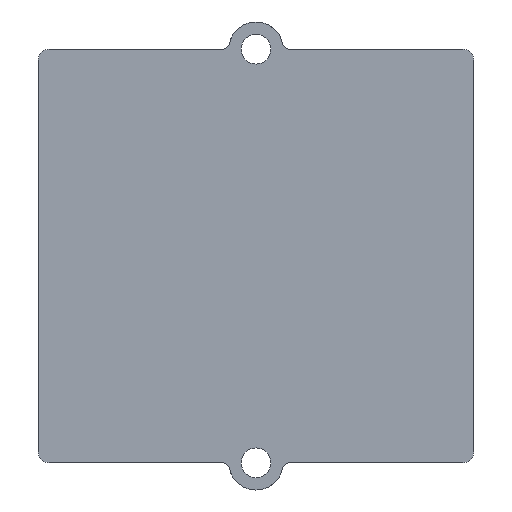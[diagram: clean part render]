
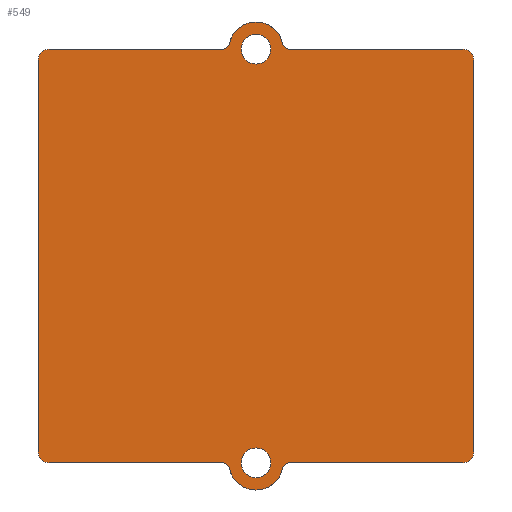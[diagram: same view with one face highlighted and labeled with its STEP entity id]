
A CAD part, front view. The second image highlights one B-rep face of the part: STEP entity #549.
In plain terms, the highlighted planar face has unit normal (0, -1, 0).
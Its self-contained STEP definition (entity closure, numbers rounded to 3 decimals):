
#549=ADVANCED_FACE('',(#4052,#4054,#4056),#4058,.F.);
#4052=FACE_BOUND('',#4053,.T.);
#4053=EDGE_LOOP('',(#7645,#7646,#7647,#7648,#7649,#7650,#7651,#7652,#7653,#7654,
#7655,#7656,#7657,#7658,#7659,#7660));
#4054=FACE_BOUND('',#4055,.T.);
#4055=EDGE_LOOP('',(#7661));
#4056=FACE_BOUND('',#4057,.T.);
#4057=EDGE_LOOP('',(#7662));
#4058=PLANE('',#4059);
#4059=AXIS2_PLACEMENT_3D('',#4060,#4061,#4062);
#4060=CARTESIAN_POINT('',(0.,0.,-28.5));
#4061=DIRECTION('',(0.,1.,0.));
#4062=DIRECTION('',(0.,0.,1.));
#7645=ORIENTED_EDGE('',*,*,#9687,.F.);
#7646=ORIENTED_EDGE('',*,*,#9688,.T.);
#7647=ORIENTED_EDGE('',*,*,#9689,.F.);
#7648=ORIENTED_EDGE('',*,*,#9690,.T.);
#7649=ORIENTED_EDGE('',*,*,#9691,.F.);
#7650=ORIENTED_EDGE('',*,*,#9692,.T.);
#7651=ORIENTED_EDGE('',*,*,#9693,.F.);
#7652=ORIENTED_EDGE('',*,*,#9694,.T.);
#7653=ORIENTED_EDGE('',*,*,#9695,.F.);
#7654=ORIENTED_EDGE('',*,*,#9696,.T.);
#7655=ORIENTED_EDGE('',*,*,#9697,.F.);
#7656=ORIENTED_EDGE('',*,*,#9698,.T.);
#7657=ORIENTED_EDGE('',*,*,#9699,.F.);
#7658=ORIENTED_EDGE('',*,*,#9700,.T.);
#7659=ORIENTED_EDGE('',*,*,#9701,.F.);
#7660=ORIENTED_EDGE('',*,*,#9702,.T.);
#7661=ORIENTED_EDGE('',*,*,#9686,.F.);
#7662=ORIENTED_EDGE('',*,*,#9684,.F.);
#9684=EDGE_CURVE('',#10686,#10686,#10687,.T.);
#9686=EDGE_CURVE('',#10690,#10690,#10691,.T.);
#9687=EDGE_CURVE('',#10692,#10693,#10694,.T.);
#9688=EDGE_CURVE('',#10692,#10695,#10696,.T.);
#9689=EDGE_CURVE('',#10697,#10695,#10698,.T.);
#9690=EDGE_CURVE('',#10697,#10699,#10700,.T.);
#9691=EDGE_CURVE('',#10701,#10699,#10702,.T.);
#9692=EDGE_CURVE('',#10701,#10703,#10704,.T.);
#9693=EDGE_CURVE('',#10705,#10703,#10706,.T.);
#9694=EDGE_CURVE('',#10705,#10707,#10708,.T.);
#9695=EDGE_CURVE('',#10709,#10707,#10710,.T.);
#9696=EDGE_CURVE('',#10709,#10711,#10712,.T.);
#9697=EDGE_CURVE('',#10713,#10711,#10714,.T.);
#9698=EDGE_CURVE('',#10713,#10715,#10716,.T.);
#9699=EDGE_CURVE('',#10717,#10715,#10718,.T.);
#9700=EDGE_CURVE('',#10717,#10719,#10720,.T.);
#9701=EDGE_CURVE('',#10721,#10719,#10722,.T.);
#9702=EDGE_CURVE('',#10721,#10693,#10723,.T.);
#10686=VERTEX_POINT('',#12344);
#10687=CIRCLE('',#12345,2.05);
#10690=VERTEX_POINT('',#12354);
#10691=CIRCLE('',#12355,2.05);
#10692=VERTEX_POINT('',#12359);
#10693=VERTEX_POINT('',#12360);
#10694=LINE('',#12361,#12362);
#10695=VERTEX_POINT('',#12364);
#10696=CIRCLE('',#12365,1.5);
#10697=VERTEX_POINT('',#12369);
#10698=LINE('',#12370,#12371);
#10699=VERTEX_POINT('',#12373);
#10700=CIRCLE('',#12374,1.5);
#10701=VERTEX_POINT('',#12378);
#10702=LINE('',#12379,#12380);
#10703=VERTEX_POINT('',#12382);
#10704=CIRCLE('',#12383,1.);
#10705=VERTEX_POINT('',#12387);
#10706=CIRCLE('',#12388,3.75);
#10707=VERTEX_POINT('',#12392);
#10708=CIRCLE('',#12393,1.);
#10709=VERTEX_POINT('',#12397);
#10710=LINE('',#12398,#12399);
#10711=VERTEX_POINT('',#12401);
#10712=CIRCLE('',#12402,1.5);
#10713=VERTEX_POINT('',#12406);
#10714=LINE('',#12407,#12408);
#10715=VERTEX_POINT('',#12410);
#10716=CIRCLE('',#12411,1.5);
#10717=VERTEX_POINT('',#12415);
#10718=LINE('',#12416,#12417);
#10719=VERTEX_POINT('',#12419);
#10720=CIRCLE('',#12420,1.);
#10721=VERTEX_POINT('',#12424);
#10722=CIRCLE('',#12425,3.75);
#10723=CIRCLE('',#12429,1.);
#12344=CARTESIAN_POINT('',(0.,0.,26.45));
#12345=AXIS2_PLACEMENT_3D('',#12346,#12347,#12348);
#12346=CARTESIAN_POINT('',(0.,0.,28.5));
#12347=DIRECTION('',(0.,-1.,0.));
#12348=DIRECTION('',(0.,0.,-1.));
#12354=CARTESIAN_POINT('',(0.,0.,-30.55));
#12355=AXIS2_PLACEMENT_3D('',#12356,#12357,#12358);
#12356=CARTESIAN_POINT('',(0.,0.,-28.5));
#12357=DIRECTION('',(0.,-1.,0.));
#12358=DIRECTION('',(0.,0.,-1.));
#12359=CARTESIAN_POINT('',(28.5,0.,-28.5));
#12360=CARTESIAN_POINT('',(4.644,0.,-28.5));
#12361=CARTESIAN_POINT('',(28.5,0.,-28.5));
#12362=VECTOR('',#12363,1.);
#12363=DIRECTION('',(-1.,0.,0.));
#12364=CARTESIAN_POINT('',(30.,0.,-27.));
#12365=AXIS2_PLACEMENT_3D('',#12366,#12367,#12368);
#12366=CARTESIAN_POINT('',(28.5,0.,-27.));
#12367=DIRECTION('',(0.,-1.,0.));
#12368=DIRECTION('',(0.,0.,-1.));
#12369=CARTESIAN_POINT('',(30.,0.,27.));
#12370=CARTESIAN_POINT('',(30.,0.,27.));
#12371=VECTOR('',#12372,1.);
#12372=DIRECTION('',(0.,0.,-1.));
#12373=CARTESIAN_POINT('',(28.5,0.,28.5));
#12374=AXIS2_PLACEMENT_3D('',#12375,#12376,#12377);
#12375=CARTESIAN_POINT('',(28.5,0.,27.));
#12376=DIRECTION('',(0.,-1.,0.));
#12377=DIRECTION('',(1.,0.,0.));
#12378=CARTESIAN_POINT('',(4.644,0.,28.5));
#12379=CARTESIAN_POINT('',(4.644,0.,28.5));
#12380=VECTOR('',#12381,1.);
#12381=DIRECTION('',(1.,0.,0.));
#12382=CARTESIAN_POINT('',(3.666,0.,29.289));
#12383=AXIS2_PLACEMENT_3D('',#12384,#12385,#12386);
#12384=CARTESIAN_POINT('',(4.644,0.,29.5));
#12385=DIRECTION('',(0.,1.,0.));
#12386=DIRECTION('',(0.,0.,-1.));
#12387=CARTESIAN_POINT('',(-3.666,0.,29.289));
#12388=AXIS2_PLACEMENT_3D('',#12389,#12390,#12391);
#12389=CARTESIAN_POINT('',(0.,0.,28.5));
#12390=DIRECTION('',(0.,1.,0.));
#12391=DIRECTION('',(-0.978,0.,0.211));
#12392=CARTESIAN_POINT('',(-4.644,0.,28.5));
#12393=AXIS2_PLACEMENT_3D('',#12394,#12395,#12396);
#12394=CARTESIAN_POINT('',(-4.644,0.,29.5));
#12395=DIRECTION('',(0.,1.,0.));
#12396=DIRECTION('',(0.978,0.,-0.211));
#12397=CARTESIAN_POINT('',(-28.5,0.,28.5));
#12398=CARTESIAN_POINT('',(-28.5,0.,28.5));
#12399=VECTOR('',#12400,1.);
#12400=DIRECTION('',(1.,0.,0.));
#12401=CARTESIAN_POINT('',(-30.,0.,27.));
#12402=AXIS2_PLACEMENT_3D('',#12403,#12404,#12405);
#12403=CARTESIAN_POINT('',(-28.5,0.,27.));
#12404=DIRECTION('',(0.,-1.,0.));
#12405=DIRECTION('',(0.,0.,1.));
#12406=CARTESIAN_POINT('',(-30.,0.,-27.));
#12407=CARTESIAN_POINT('',(-30.,0.,-27.));
#12408=VECTOR('',#12409,1.);
#12409=DIRECTION('',(0.,0.,1.));
#12410=CARTESIAN_POINT('',(-28.5,0.,-28.5));
#12411=AXIS2_PLACEMENT_3D('',#12412,#12413,#12414);
#12412=CARTESIAN_POINT('',(-28.5,0.,-27.));
#12413=DIRECTION('',(0.,-1.,0.));
#12414=DIRECTION('',(-1.,0.,0.));
#12415=CARTESIAN_POINT('',(-4.644,0.,-28.5));
#12416=CARTESIAN_POINT('',(-4.644,0.,-28.5));
#12417=VECTOR('',#12418,1.);
#12418=DIRECTION('',(-1.,0.,0.));
#12419=CARTESIAN_POINT('',(-3.666,0.,-29.289));
#12420=AXIS2_PLACEMENT_3D('',#12421,#12422,#12423);
#12421=CARTESIAN_POINT('',(-4.644,0.,-29.5));
#12422=DIRECTION('',(0.,1.,0.));
#12423=DIRECTION('',(0.,0.,1.));
#12424=CARTESIAN_POINT('',(3.666,0.,-29.289));
#12425=AXIS2_PLACEMENT_3D('',#12426,#12427,#12428);
#12426=CARTESIAN_POINT('',(0.,0.,-28.5));
#12427=DIRECTION('',(0.,1.,0.));
#12428=DIRECTION('',(0.978,0.,-0.211));
#12429=AXIS2_PLACEMENT_3D('',#12430,#12431,#12432);
#12430=CARTESIAN_POINT('',(4.644,0.,-29.5));
#12431=DIRECTION('',(0.,1.,0.));
#12432=DIRECTION('',(-0.978,0.,0.211));
